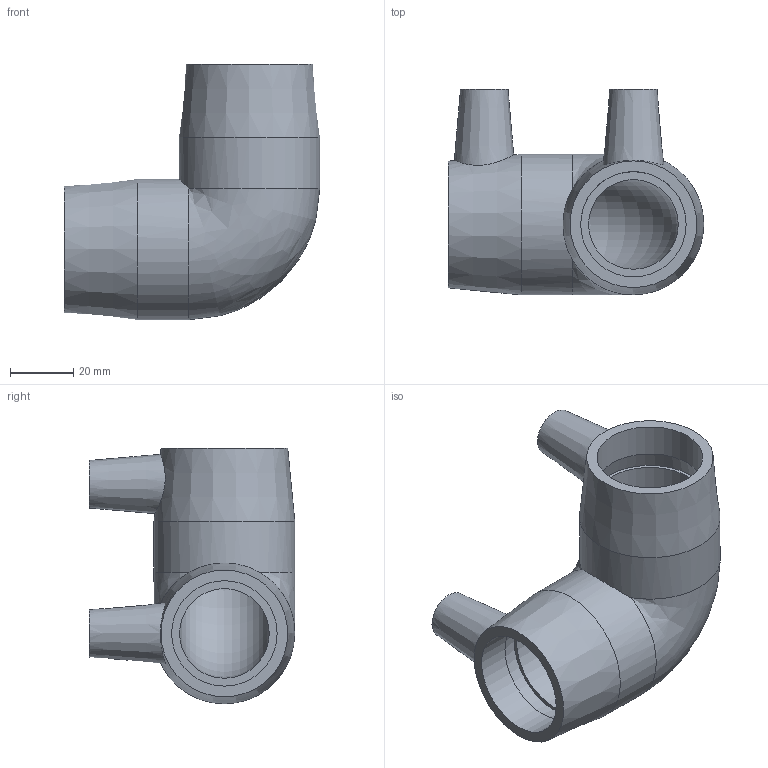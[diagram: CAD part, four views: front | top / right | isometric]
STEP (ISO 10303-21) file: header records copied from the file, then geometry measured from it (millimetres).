
FILE_DESCRIPTION(/* description */ ('PLASSON 90° ELBOW ASTM 1'''''),/* implementation_level */ '2;1');
FILE_NAME(/* name */ 'C:\Dropbox\KIMPROJECTS-Inventor 2019\99-16-3568-Processing Inch\ASTM ElectroFusion 2021\5905B\5905B003010.ipt.stp',/* time_stamp */ '2021-08-30T09:49:45+03:00',/* author */ ('KIM'),/* organization */ (''),/* preprocessor_version */ 'ST-DEVELOPER v17.2',/* originating_system */ 'Autodesk Inventor 2019',/* authorisation */ '');
FILE_SCHEMA (('AUTOMOTIVE_DESIGN { 1 0 10303 214 3 1 1 }'));
Length unit declared in the file: inch
Products named in the file (1): 5905B003010
Bounding box: 80.71 x 64.9 x 80.71 mm (x, y, z)
Volume: 82515.3 mm3; surface area: 30672.6 mm2
Topology: 1 solids, 1 shells, 30 faces, 66 edges, 46 vertices
Faces by surface type: plane 12, cylinder 10, cone 6, bspline 1, torus 1
Full cylindrical faces by diameter (mm): 4 x2, 10 x2, 33.3 x4, 44.45 x2
Entity records: 981 total; most frequent: CARTESIAN_POINT 235, DIRECTION 164, ORIENTED_EDGE 128, AXIS2_PLACEMENT_3D 74, EDGE_CURVE 64, VERTEX_POINT 46, CIRCLE 43, EDGE_LOOP 42
